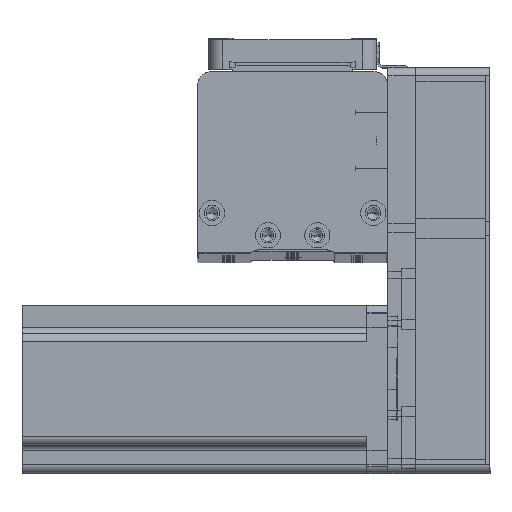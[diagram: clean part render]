
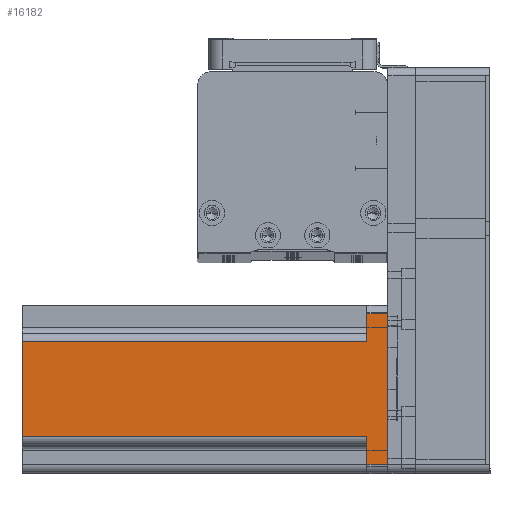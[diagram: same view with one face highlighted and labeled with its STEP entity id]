
A CAD part, top view. The second image highlights one B-rep face of the part: STEP entity #16182.
In plain terms, the highlighted planar face has unit normal (0, 0, 1) as drawn and (0, 1, 0) by its records, which use the part's own axes.
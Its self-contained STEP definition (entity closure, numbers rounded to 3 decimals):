
#1086 = EDGE_CURVE ( 'NONE', #1218, #23053, #48597, .T. ) ;
#1218 = VERTEX_POINT ( 'NONE', #55126 ) ;
#2159 = CARTESIAN_POINT ( 'NONE',  ( 27., 30., 130.7 ) ) ;
#2635 = CARTESIAN_POINT ( 'NONE',  ( 27., 30., 7.5 ) ) ;
#2648 = DIRECTION ( 'NONE',  ( 1., 0., 0. ) ) ;
#3346 = CARTESIAN_POINT ( 'NONE',  ( -27., 30., 0. ) ) ;
#3921 = VERTEX_POINT ( 'NONE', #18749 ) ;
#4289 = VECTOR ( 'NONE', #50086, 1000. ) ;
#4338 = ORIENTED_EDGE ( 'NONE', *, *, #9310, .F. ) ;
#5068 = ORIENTED_EDGE ( 'NONE', *, *, #19473, .T. ) ;
#5180 = CARTESIAN_POINT ( 'NONE',  ( 20., 30., 7.5 ) ) ;
#5990 = VECTOR ( 'NONE', #6475, 1000. ) ;
#6475 = DIRECTION ( 'NONE',  ( 0., 0., -1. ) ) ;
#6611 = ORIENTED_EDGE ( 'NONE', *, *, #37799, .T. ) ;
#6741 = VERTEX_POINT ( 'NONE', #27507 ) ;
#7786 = FACE_OUTER_BOUND ( 'NONE', #25299, .T. ) ;
#9310 = EDGE_CURVE ( 'NONE', #32927, #3921, #11172, .T. ) ;
#11172 = LINE ( 'NONE', #5180, #55494 ) ;
#11664 = CARTESIAN_POINT ( 'NONE',  ( -27., 30., 130.7 ) ) ;
#11670 = CARTESIAN_POINT ( 'NONE',  ( -17., 30., 7.5 ) ) ;
#11760 = LINE ( 'NONE', #11664, #44671 ) ;
#12278 = CARTESIAN_POINT ( 'NONE',  ( -17., 30., 130.7 ) ) ;
#12795 = LINE ( 'NONE', #12278, #35618 ) ;
#13935 = DIRECTION ( 'NONE',  ( -1., 0., 0. ) ) ;
#16182 = ADVANCED_FACE ( 'NONE', ( #7786 ), #53866, .F. ) ;
#16295 = AXIS2_PLACEMENT_3D ( 'NONE', #54079, #28314, #2648 ) ;
#17187 = EDGE_CURVE ( 'NONE', #24308, #18038, #52016, .T. ) ;
#17429 = EDGE_CURVE ( 'NONE', #18038, #6741, #11760, .T. ) ;
#17710 = ORIENTED_EDGE ( 'NONE', *, *, #1086, .F. ) ;
#18038 = VERTEX_POINT ( 'NONE', #3346 ) ;
#18749 = CARTESIAN_POINT ( 'NONE',  ( 17., 30., 7.5 ) ) ;
#19473 = EDGE_CURVE ( 'NONE', #32927, #24308, #51649, .T. ) ;
#20891 = CARTESIAN_POINT ( 'NONE',  ( -17., 30., 130.7 ) ) ;
#23053 = VERTEX_POINT ( 'NONE', #20891 ) ;
#23938 = CARTESIAN_POINT ( 'NONE',  ( 30., 30., 130.7 ) ) ;
#24308 = VERTEX_POINT ( 'NONE', #53633 ) ;
#24673 = LINE ( 'NONE', #48226, #34816 ) ;
#25299 = EDGE_LOOP ( 'NONE', ( #6611, #37358, #17710, #53646, #4338, #5068, #44153, #44246 ) ) ;
#26710 = DIRECTION ( 'NONE',  ( 0., 0., -1. ) ) ;
#26817 = CARTESIAN_POINT ( 'NONE',  ( 30., 30., 0. ) ) ;
#27507 = CARTESIAN_POINT ( 'NONE',  ( -27., 30., 7.5 ) ) ;
#28314 = DIRECTION ( 'NONE',  ( 0., -1., 0. ) ) ;
#32290 = VERTEX_POINT ( 'NONE', #11670 ) ;
#32927 = VERTEX_POINT ( 'NONE', #2635 ) ;
#34816 = VECTOR ( 'NONE', #26710, 1000. ) ;
#35618 = VECTOR ( 'NONE', #42305, 1000. ) ;
#37358 = ORIENTED_EDGE ( 'NONE', *, *, #38645, .T. ) ;
#37799 = EDGE_CURVE ( 'NONE', #6741, #32290, #45105, .T. ) ;
#38645 = EDGE_CURVE ( 'NONE', #32290, #23053, #12795, .T. ) ;
#41713 = DIRECTION ( 'NONE',  ( 0., 0., 1. ) ) ;
#42305 = DIRECTION ( 'NONE',  ( 0., 0., 1. ) ) ;
#43048 = EDGE_CURVE ( 'NONE', #1218, #3921, #24673, .T. ) ;
#44153 = ORIENTED_EDGE ( 'NONE', *, *, #17187, .T. ) ;
#44246 = ORIENTED_EDGE ( 'NONE', *, *, #17429, .T. ) ;
#44671 = VECTOR ( 'NONE', #41713, 1000. ) ;
#45105 = LINE ( 'NONE', #48445, #46472 ) ;
#46472 = VECTOR ( 'NONE', #52731, 1000. ) ;
#48226 = CARTESIAN_POINT ( 'NONE',  ( 17., 30., 130.7 ) ) ;
#48445 = CARTESIAN_POINT ( 'NONE',  ( -20., 30., 7.5 ) ) ;
#48597 = LINE ( 'NONE', #23938, #4289 ) ;
#50086 = DIRECTION ( 'NONE',  ( -1., 0., 0. ) ) ;
#50686 = VECTOR ( 'NONE', #13935, 1000. ) ;
#51649 = LINE ( 'NONE', #2159, #5990 ) ;
#52016 = LINE ( 'NONE', #26817, #50686 ) ;
#52243 = DIRECTION ( 'NONE',  ( -1., 0., 0. ) ) ;
#52731 = DIRECTION ( 'NONE',  ( 1., 0., 0. ) ) ;
#53633 = CARTESIAN_POINT ( 'NONE',  ( 27., 30., 0. ) ) ;
#53646 = ORIENTED_EDGE ( 'NONE', *, *, #43048, .T. ) ;
#53866 = PLANE ( 'NONE',  #16295 ) ;
#54079 = CARTESIAN_POINT ( 'NONE',  ( 30., 30., 130.7 ) ) ;
#55126 = CARTESIAN_POINT ( 'NONE',  ( 17., 30., 130.7 ) ) ;
#55494 = VECTOR ( 'NONE', #52243, 1000. ) ;
